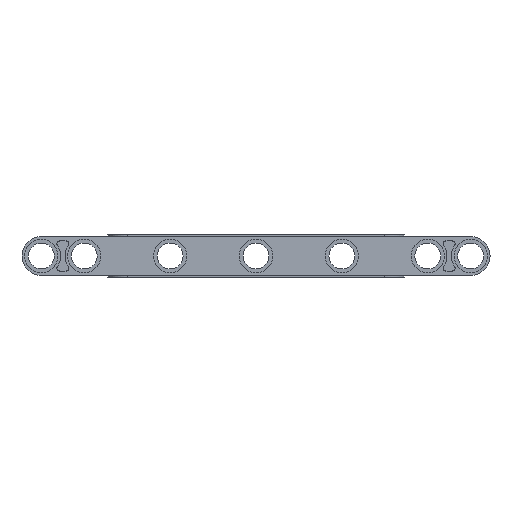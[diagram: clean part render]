
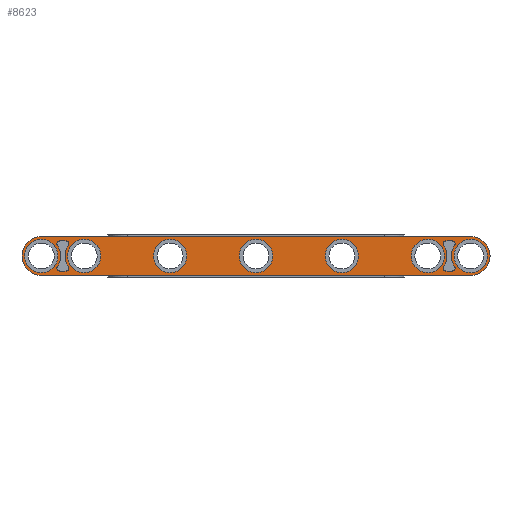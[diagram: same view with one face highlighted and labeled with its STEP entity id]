
A CAD part, front view. The second image highlights one B-rep face of the part: STEP entity #8623.
In plain terms, the highlighted planar face has unit normal (0, -1, 0).
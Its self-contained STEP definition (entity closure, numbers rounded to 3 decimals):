
#324=CIRCLE('',#9197,3.6);
#325=CIRCLE('',#9198,3.6);
#326=CIRCLE('',#9199,0.5);
#327=CIRCLE('',#9200,3.6);
#328=CIRCLE('',#9201,0.5);
#329=CIRCLE('',#9202,0.5);
#330=CIRCLE('',#9203,3.6);
#331=CIRCLE('',#9204,0.5);
#332=CIRCLE('',#9205,3.1);
#333=CIRCLE('',#9206,3.1);
#334=CIRCLE('',#9207,3.1);
#335=CIRCLE('',#9208,3.1);
#336=CIRCLE('',#9209,3.1);
#337=CIRCLE('',#9210,3.1);
#338=CIRCLE('',#9211,3.1);
#339=CIRCLE('',#9212,3.6);
#340=CIRCLE('',#9213,0.5);
#341=CIRCLE('',#9214,0.5);
#342=CIRCLE('',#9215,3.6);
#343=CIRCLE('',#9216,0.5);
#344=CIRCLE('',#9217,0.5);
#1124=ORIENTED_EDGE('',*,*,#3557,.F.);
#1125=ORIENTED_EDGE('',*,*,#3417,.F.);
#1126=ORIENTED_EDGE('',*,*,#3558,.F.);
#1127=ORIENTED_EDGE('',*,*,#3539,.T.);
#1128=ORIENTED_EDGE('',*,*,#3559,.T.);
#1129=ORIENTED_EDGE('',*,*,#3560,.T.);
#1130=ORIENTED_EDGE('',*,*,#3561,.T.);
#1131=ORIENTED_EDGE('',*,*,#3562,.T.);
#1132=ORIENTED_EDGE('',*,*,#3563,.T.);
#1133=ORIENTED_EDGE('',*,*,#3564,.T.);
#1134=ORIENTED_EDGE('',*,*,#3565,.T.);
#1135=ORIENTED_EDGE('',*,*,#3566,.T.);
#1136=ORIENTED_EDGE('',*,*,#3567,.F.);
#1137=ORIENTED_EDGE('',*,*,#3568,.F.);
#1138=ORIENTED_EDGE('',*,*,#3569,.T.);
#1139=ORIENTED_EDGE('',*,*,#3570,.T.);
#1140=ORIENTED_EDGE('',*,*,#3571,.T.);
#1141=ORIENTED_EDGE('',*,*,#3572,.T.);
#1142=ORIENTED_EDGE('',*,*,#3573,.T.);
#1143=ORIENTED_EDGE('',*,*,#3574,.T.);
#1144=ORIENTED_EDGE('',*,*,#3575,.T.);
#1145=ORIENTED_EDGE('',*,*,#3576,.T.);
#1146=ORIENTED_EDGE('',*,*,#3577,.T.);
#1147=ORIENTED_EDGE('',*,*,#3578,.T.);
#1148=ORIENTED_EDGE('',*,*,#3579,.T.);
#1149=ORIENTED_EDGE('',*,*,#3580,.T.);
#1150=ORIENTED_EDGE('',*,*,#3581,.T.);
#3417=EDGE_CURVE('',#4649,#4650,#5543,.T.);
#3539=EDGE_CURVE('',#4772,#4771,#5633,.T.);
#3557=EDGE_CURVE('',#4650,#4771,#324,.T.);
#3558=EDGE_CURVE('',#4772,#4649,#325,.T.);
#3559=EDGE_CURVE('',#4786,#4787,#5649,.T.);
#3560=EDGE_CURVE('',#4787,#4788,#326,.T.);
#3561=EDGE_CURVE('',#4788,#4789,#327,.T.);
#3562=EDGE_CURVE('',#4789,#4790,#328,.T.);
#3563=EDGE_CURVE('',#4790,#4791,#5650,.T.);
#3564=EDGE_CURVE('',#4791,#4792,#329,.T.);
#3565=EDGE_CURVE('',#4792,#4793,#330,.T.);
#3566=EDGE_CURVE('',#4793,#4786,#331,.T.);
#3567=EDGE_CURVE('',#4794,#4794,#332,.T.);
#3568=EDGE_CURVE('',#4795,#4795,#333,.T.);
#3569=EDGE_CURVE('',#4796,#4796,#334,.T.);
#3570=EDGE_CURVE('',#4797,#4797,#335,.T.);
#3571=EDGE_CURVE('',#4798,#4798,#336,.T.);
#3572=EDGE_CURVE('',#4799,#4799,#337,.T.);
#3573=EDGE_CURVE('',#4800,#4800,#338,.T.);
#3574=EDGE_CURVE('',#4801,#4802,#339,.T.);
#3575=EDGE_CURVE('',#4802,#4803,#340,.T.);
#3576=EDGE_CURVE('',#4803,#4804,#5651,.T.);
#3577=EDGE_CURVE('',#4804,#4805,#341,.T.);
#3578=EDGE_CURVE('',#4805,#4806,#342,.T.);
#3579=EDGE_CURVE('',#4806,#4807,#343,.T.);
#3580=EDGE_CURVE('',#4807,#4808,#5652,.T.);
#3581=EDGE_CURVE('',#4808,#4801,#344,.T.);
#4649=VERTEX_POINT('',#13158);
#4650=VERTEX_POINT('',#13160);
#4771=VERTEX_POINT('',#13403);
#4772=VERTEX_POINT('',#13405);
#4786=VERTEX_POINT('',#13442);
#4787=VERTEX_POINT('',#13443);
#4788=VERTEX_POINT('',#13445);
#4789=VERTEX_POINT('',#13447);
#4790=VERTEX_POINT('',#13449);
#4791=VERTEX_POINT('',#13451);
#4792=VERTEX_POINT('',#13453);
#4793=VERTEX_POINT('',#13455);
#4794=VERTEX_POINT('',#13458);
#4795=VERTEX_POINT('',#13460);
#4796=VERTEX_POINT('',#13462);
#4797=VERTEX_POINT('',#13464);
#4798=VERTEX_POINT('',#13466);
#4799=VERTEX_POINT('',#13468);
#4800=VERTEX_POINT('',#13470);
#4801=VERTEX_POINT('',#13472);
#4802=VERTEX_POINT('',#13473);
#4803=VERTEX_POINT('',#13475);
#4804=VERTEX_POINT('',#13477);
#4805=VERTEX_POINT('',#13479);
#4806=VERTEX_POINT('',#13481);
#4807=VERTEX_POINT('',#13483);
#4808=VERTEX_POINT('',#13485);
#5543=LINE('',#13159,#6275);
#5633=LINE('',#13404,#6365);
#5649=LINE('',#13441,#6381);
#5650=LINE('',#13450,#6382);
#5651=LINE('',#13476,#6383);
#5652=LINE('',#13484,#6384);
#6275=VECTOR('',#10330,1000.);
#6365=VECTOR('',#10486,1000.);
#6381=VECTOR('',#10516,1000.);
#6382=VECTOR('',#10523,1000.);
#6383=VECTOR('',#10548,1000.);
#6384=VECTOR('',#10555,1000.);
#6979=EDGE_LOOP('',(#1124,#1125,#1126,#1127));
#6980=EDGE_LOOP('',(#1128,#1129,#1130,#1131,#1132,#1133,#1134,#1135));
#6981=EDGE_LOOP('',(#1136));
#6982=EDGE_LOOP('',(#1137));
#6983=EDGE_LOOP('',(#1138));
#6984=EDGE_LOOP('',(#1139));
#6985=EDGE_LOOP('',(#1140));
#6986=EDGE_LOOP('',(#1141));
#6987=EDGE_LOOP('',(#1142));
#6988=EDGE_LOOP('',(#1143,#1144,#1145,#1146,#1147,#1148,#1149,#1150));
#7679=FACE_BOUND('',#6979,.T.);
#7680=FACE_BOUND('',#6980,.T.);
#7681=FACE_BOUND('',#6981,.T.);
#7682=FACE_BOUND('',#6982,.T.);
#7683=FACE_BOUND('',#6983,.T.);
#7684=FACE_BOUND('',#6984,.T.);
#7685=FACE_BOUND('',#6985,.T.);
#7686=FACE_BOUND('',#6986,.T.);
#7687=FACE_BOUND('',#6987,.T.);
#7688=FACE_BOUND('',#6988,.T.);
#8359=PLANE('',#9196);
#8623=ADVANCED_FACE('',(#7679,#7680,#7681,#7682,#7683,#7684,#7685,#7686,
#7687,#7688),#8359,.F.);
#9196=AXIS2_PLACEMENT_3D('',#13438,#10510,#10511);
#9197=AXIS2_PLACEMENT_3D('',#13439,#10512,#10513);
#9198=AXIS2_PLACEMENT_3D('',#13440,#10514,#10515);
#9199=AXIS2_PLACEMENT_3D('',#13444,#10517,#10518);
#9200=AXIS2_PLACEMENT_3D('',#13446,#10519,#10520);
#9201=AXIS2_PLACEMENT_3D('',#13448,#10521,#10522);
#9202=AXIS2_PLACEMENT_3D('',#13452,#10524,#10525);
#9203=AXIS2_PLACEMENT_3D('',#13454,#10526,#10527);
#9204=AXIS2_PLACEMENT_3D('',#13456,#10528,#10529);
#9205=AXIS2_PLACEMENT_3D('',#13457,#10530,#10531);
#9206=AXIS2_PLACEMENT_3D('',#13459,#10532,#10533);
#9207=AXIS2_PLACEMENT_3D('',#13461,#10534,#10535);
#9208=AXIS2_PLACEMENT_3D('',#13463,#10536,#10537);
#9209=AXIS2_PLACEMENT_3D('',#13465,#10538,#10539);
#9210=AXIS2_PLACEMENT_3D('',#13467,#10540,#10541);
#9211=AXIS2_PLACEMENT_3D('',#13469,#10542,#10543);
#9212=AXIS2_PLACEMENT_3D('',#13471,#10544,#10545);
#9213=AXIS2_PLACEMENT_3D('',#13474,#10546,#10547);
#9214=AXIS2_PLACEMENT_3D('',#13478,#10549,#10550);
#9215=AXIS2_PLACEMENT_3D('',#13480,#10551,#10552);
#9216=AXIS2_PLACEMENT_3D('',#13482,#10553,#10554);
#9217=AXIS2_PLACEMENT_3D('',#13486,#10556,#10557);
#10330=DIRECTION('',(1.,0.,0.));
#10486=DIRECTION('',(1.,0.,0.));
#10510=DIRECTION('',(0.,1.,0.));
#10511=DIRECTION('',(0.,0.,1.));
#10512=DIRECTION('',(0.,1.,0.));
#10513=DIRECTION('',(-1.,0.,0.));
#10514=DIRECTION('',(0.,1.,0.));
#10515=DIRECTION('',(1.,0.,0.));
#10516=DIRECTION('',(-1.,0.,0.));
#10517=DIRECTION('',(0.,1.,0.));
#10518=DIRECTION('',(0.,0.,1.));
#10519=DIRECTION('',(0.,-1.,0.));
#10520=DIRECTION('',(-1.,0.,0.));
#10521=DIRECTION('',(0.,1.,0.));
#10522=DIRECTION('',(0.,0.,1.));
#10523=DIRECTION('',(1.,0.,0.));
#10524=DIRECTION('',(0.,1.,0.));
#10525=DIRECTION('',(0.,0.,1.));
#10526=DIRECTION('',(0.,-1.,0.));
#10527=DIRECTION('',(1.,0.,0.));
#10528=DIRECTION('',(0.,1.,0.));
#10529=DIRECTION('',(0.,0.,1.));
#10530=DIRECTION('',(0.,-1.,0.));
#10531=DIRECTION('',(0.,0.,-1.));
#10532=DIRECTION('',(0.,-1.,0.));
#10533=DIRECTION('',(0.,0.,-1.));
#10534=DIRECTION('',(0.,1.,0.));
#10535=DIRECTION('',(0.,0.,1.));
#10536=DIRECTION('',(0.,1.,0.));
#10537=DIRECTION('',(0.,0.,1.));
#10538=DIRECTION('',(0.,1.,0.));
#10539=DIRECTION('',(0.,0.,1.));
#10540=DIRECTION('',(0.,1.,0.));
#10541=DIRECTION('',(0.,0.,1.));
#10542=DIRECTION('',(0.,1.,0.));
#10543=DIRECTION('',(0.,0.,1.));
#10544=DIRECTION('',(0.,-1.,0.));
#10545=DIRECTION('',(1.,0.,0.));
#10546=DIRECTION('',(0.,1.,0.));
#10547=DIRECTION('',(0.,0.,1.));
#10548=DIRECTION('',(-1.,0.,0.));
#10549=DIRECTION('',(0.,1.,0.));
#10550=DIRECTION('',(0.,0.,1.));
#10551=DIRECTION('',(0.,-1.,0.));
#10552=DIRECTION('',(-1.,0.,0.));
#10553=DIRECTION('',(0.,1.,0.));
#10554=DIRECTION('',(0.,0.,1.));
#10555=DIRECTION('',(1.,0.,0.));
#10556=DIRECTION('',(0.,1.,0.));
#10557=DIRECTION('',(0.,0.,1.));
#13158=CARTESIAN_POINT('',(-40.,-20.,3.6));
#13159=CARTESIAN_POINT('',(-24.,-20.,3.6));
#13160=CARTESIAN_POINT('',(40.,-20.,3.6));
#13403=CARTESIAN_POINT('',(40.,-20.,-3.6));
#13404=CARTESIAN_POINT('',(-24.,-20.,-3.6));
#13405=CARTESIAN_POINT('',(-40.,-20.,-3.6));
#13438=CARTESIAN_POINT('',(-24.,-20.,3.6));
#13439=CARTESIAN_POINT('',(40.,-20.,0.));
#13440=CARTESIAN_POINT('',(-40.,-20.,0.));
#13441=CARTESIAN_POINT('',(-36.291,-20.,-2.8));
#13442=CARTESIAN_POINT('',(-35.394,-20.,-2.8));
#13443=CARTESIAN_POINT('',(-36.606,-20.,-2.8));
#13444=CARTESIAN_POINT('',(-36.606,-20.,-2.3));
#13445=CARTESIAN_POINT('',(-37.02,-20.,-2.02));
#13446=CARTESIAN_POINT('',(-40.,-20.,0.));
#13447=CARTESIAN_POINT('',(-37.02,-20.,2.02));
#13448=CARTESIAN_POINT('',(-36.606,-20.,2.3));
#13449=CARTESIAN_POINT('',(-36.606,-20.,2.8));
#13450=CARTESIAN_POINT('',(-35.988,-20.,2.8));
#13451=CARTESIAN_POINT('',(-35.394,-20.,2.8));
#13452=CARTESIAN_POINT('',(-35.394,-20.,2.3));
#13453=CARTESIAN_POINT('',(-34.98,-20.,2.02));
#13454=CARTESIAN_POINT('',(-32.,-20.,0.));
#13455=CARTESIAN_POINT('',(-34.98,-20.,-2.02));
#13456=CARTESIAN_POINT('',(-35.394,-20.,-2.3));
#13457=CARTESIAN_POINT('',(-32.,-20.,0.));
#13458=CARTESIAN_POINT('',(-32.,-20.,-3.1));
#13459=CARTESIAN_POINT('',(-40.,-20.,0.));
#13460=CARTESIAN_POINT('',(-40.,-20.,-3.1));
#13461=CARTESIAN_POINT('',(-16.,-20.,0.));
#13462=CARTESIAN_POINT('',(-16.,-20.,3.1));
#13463=CARTESIAN_POINT('',(0.,-20.,0.));
#13464=CARTESIAN_POINT('',(0.,-20.,3.1));
#13465=CARTESIAN_POINT('',(16.,-20.,0.));
#13466=CARTESIAN_POINT('',(16.,-20.,3.1));
#13467=CARTESIAN_POINT('',(40.,-20.,0.));
#13468=CARTESIAN_POINT('',(40.,-20.,3.1));
#13469=CARTESIAN_POINT('',(32.,-20.,0.));
#13470=CARTESIAN_POINT('',(32.,-20.,3.1));
#13471=CARTESIAN_POINT('',(40.,-20.,0.));
#13472=CARTESIAN_POINT('',(37.02,-20.,2.02));
#13473=CARTESIAN_POINT('',(37.02,-20.,-2.02));
#13474=CARTESIAN_POINT('',(36.606,-20.,-2.3));
#13475=CARTESIAN_POINT('',(36.606,-20.,-2.8));
#13476=CARTESIAN_POINT('',(36.291,-20.,-2.8));
#13477=CARTESIAN_POINT('',(35.394,-20.,-2.8));
#13478=CARTESIAN_POINT('',(35.394,-20.,-2.3));
#13479=CARTESIAN_POINT('',(34.98,-20.,-2.02));
#13480=CARTESIAN_POINT('',(32.,-20.,0.));
#13481=CARTESIAN_POINT('',(34.98,-20.,2.02));
#13482=CARTESIAN_POINT('',(35.394,-20.,2.3));
#13483=CARTESIAN_POINT('',(35.394,-20.,2.8));
#13484=CARTESIAN_POINT('',(35.988,-20.,2.8));
#13485=CARTESIAN_POINT('',(36.606,-20.,2.8));
#13486=CARTESIAN_POINT('',(36.606,-20.,2.3));
